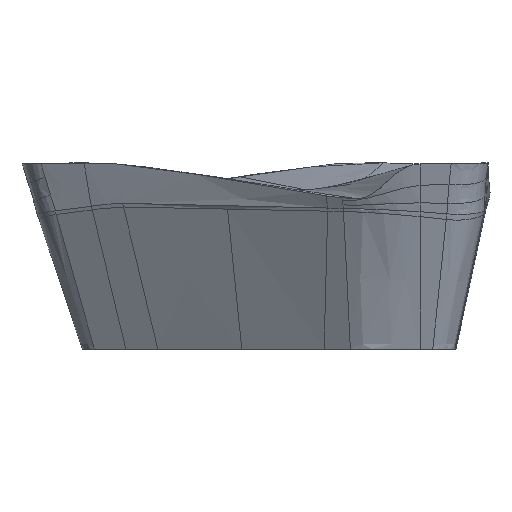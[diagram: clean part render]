
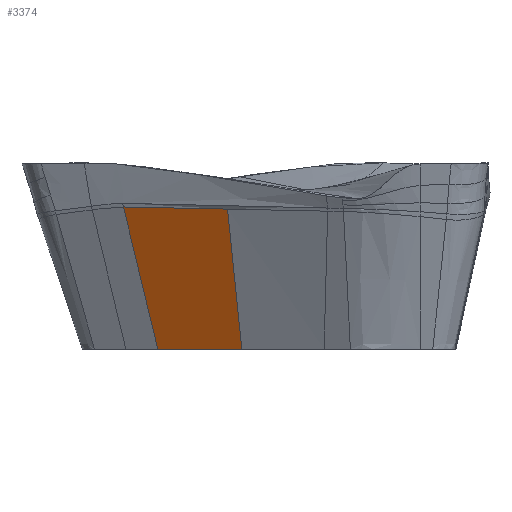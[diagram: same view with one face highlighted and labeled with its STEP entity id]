
A CAD part, left-side view. The second image highlights one B-rep face of the part: STEP entity #3374.
In plain terms, the highlighted free-form (B-spline) face has degree [5, 5] with [6, 9] control points.
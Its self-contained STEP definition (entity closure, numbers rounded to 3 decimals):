
#2306=CARTESIAN_POINT('Vertex',(-2.625,1.516,0.)) ;
#2310=CARTESIAN_POINT('Control Point',(-2.625,1.516,0.)) ;
#2311=CARTESIAN_POINT('Control Point',(-2.437,1.837,0.)) ;
#2312=CARTESIAN_POINT('Control Point',(-2.249,2.158,0.)) ;
#2313=CARTESIAN_POINT('Control Point',(-2.061,2.479,0.)) ;
#2314=CARTESIAN_POINT('Control Point',(-1.852,2.836,0.)) ;
#2315=CARTESIAN_POINT('Control Point',(-1.644,3.194,0.)) ;
#2316=CARTESIAN_POINT('Control Point',(-1.623,3.23,0.)) ;
#2317=CARTESIAN_POINT('Control Point',(-1.602,3.266,0.)) ;
#2318=CARTESIAN_POINT('Control Point',(-1.581,3.301,0.)) ;
#2319=CARTESIAN_POINT('Vertex',(-1.581,3.301,0.)) ;
#3256=CARTESIAN_POINT('Vertex',(-1.905,4.035,3.025)) ;
#3268=CARTESIAN_POINT('Control Point',(-1.581,3.301,0.)) ;
#3269=CARTESIAN_POINT('Control Point',(-1.582,3.303,0.009)) ;
#3270=CARTESIAN_POINT('Control Point',(-1.583,3.306,0.018)) ;
#3271=CARTESIAN_POINT('Control Point',(-1.584,3.308,0.026)) ;
#3272=CARTESIAN_POINT('Control Point',(-1.585,3.311,0.039)) ;
#3273=CARTESIAN_POINT('Control Point',(-1.586,3.314,0.052)) ;
#3274=CARTESIAN_POINT('Control Point',(-1.587,3.315,0.055)) ;
#3275=CARTESIAN_POINT('Control Point',(-1.588,3.317,0.067)) ;
#3276=CARTESIAN_POINT('Control Point',(-1.589,3.321,0.079)) ;
#3277=CARTESIAN_POINT('Control Point',(-1.59,3.322,0.086)) ;
#3278=CARTESIAN_POINT('Control Point',(-1.653,3.466,0.678)) ;
#3279=CARTESIAN_POINT('Control Point',(-1.717,3.61,1.273)) ;
#3280=CARTESIAN_POINT('Control Point',(-1.779,3.751,1.855)) ;
#3281=CARTESIAN_POINT('Control Point',(-1.842,3.894,2.441)) ;
#3282=CARTESIAN_POINT('Control Point',(-1.905,4.035,3.025)) ;
#3293=CARTESIAN_POINT('Control Point',(-3.151,1.819,2.98)) ;
#3294=CARTESIAN_POINT('Control Point',(-3.042,1.756,2.406)) ;
#3295=CARTESIAN_POINT('Control Point',(-2.937,1.696,1.831)) ;
#3296=CARTESIAN_POINT('Control Point',(-2.835,1.637,1.255)) ;
#3297=CARTESIAN_POINT('Control Point',(-2.687,1.552,0.389)) ;
#3298=CARTESIAN_POINT('Control Point',(-2.547,1.471,-0.478)) ;
#3299=CARTESIAN_POINT('Control Point',(-2.501,1.444,-0.767)) ;
#3300=CARTESIAN_POINT('Control Point',(-2.454,1.417,-1.056)) ;
#3301=CARTESIAN_POINT('Control Point',(-2.407,1.39,-1.345)) ;
#3302=CARTESIAN_POINT('Control Point',(-2.896,2.259,2.989)) ;
#3303=CARTESIAN_POINT('Control Point',(-2.797,2.181,2.413)) ;
#3304=CARTESIAN_POINT('Control Point',(-2.701,2.104,1.835)) ;
#3305=CARTESIAN_POINT('Control Point',(-2.608,2.03,1.257)) ;
#3306=CARTESIAN_POINT('Control Point',(-2.474,1.92,0.39)) ;
#3307=CARTESIAN_POINT('Control Point',(-2.345,1.814,-0.479)) ;
#3308=CARTESIAN_POINT('Control Point',(-2.302,1.779,-0.769)) ;
#3309=CARTESIAN_POINT('Control Point',(-2.259,1.744,-1.058)) ;
#3310=CARTESIAN_POINT('Control Point',(-2.216,1.709,-1.348)) ;
#3311=CARTESIAN_POINT('Control Point',(-2.65,2.704,2.998)) ;
#3312=CARTESIAN_POINT('Control Point',(-2.559,2.61,2.419)) ;
#3313=CARTESIAN_POINT('Control Point',(-2.472,2.517,1.839)) ;
#3314=CARTESIAN_POINT('Control Point',(-2.387,2.425,1.262)) ;
#3315=CARTESIAN_POINT('Control Point',(-2.262,2.289,0.389)) ;
#3316=CARTESIAN_POINT('Control Point',(-2.14,2.156,-0.48)) ;
#3317=CARTESIAN_POINT('Control Point',(-2.1,2.112,-0.769)) ;
#3318=CARTESIAN_POINT('Control Point',(-2.059,2.068,-1.059)) ;
#3319=CARTESIAN_POINT('Control Point',(-2.019,2.024,-1.349)) ;
#3320=CARTESIAN_POINT('Control Point',(-2.406,3.15,3.007)) ;
#3321=CARTESIAN_POINT('Control Point',(-2.325,3.04,2.425)) ;
#3322=CARTESIAN_POINT('Control Point',(-2.245,2.93,1.843)) ;
#3323=CARTESIAN_POINT('Control Point',(-2.167,2.822,1.267)) ;
#3324=CARTESIAN_POINT('Control Point',(-2.05,2.658,0.388)) ;
#3325=CARTESIAN_POINT('Control Point',(-1.935,2.498,-0.48)) ;
#3326=CARTESIAN_POINT('Control Point',(-1.896,2.444,-0.77)) ;
#3327=CARTESIAN_POINT('Control Point',(-1.858,2.391,-1.06)) ;
#3328=CARTESIAN_POINT('Control Point',(-1.819,2.337,-1.35)) ;
#3329=CARTESIAN_POINT('Control Point',(-2.159,3.595,3.016)) ;
#3330=CARTESIAN_POINT('Control Point',(-2.087,3.469,2.432)) ;
#3331=CARTESIAN_POINT('Control Point',(-2.016,3.342,1.847)) ;
#3332=CARTESIAN_POINT('Control Point',(-1.945,3.218,1.272)) ;
#3333=CARTESIAN_POINT('Control Point',(-1.837,3.027,0.387)) ;
#3334=CARTESIAN_POINT('Control Point',(-1.731,2.84,-0.48)) ;
#3335=CARTESIAN_POINT('Control Point',(-1.695,2.778,-0.77)) ;
#3336=CARTESIAN_POINT('Control Point',(-1.659,2.715,-1.06)) ;
#3337=CARTESIAN_POINT('Control Point',(-1.624,2.653,-1.349)) ;
#3338=CARTESIAN_POINT('Control Point',(-1.905,4.035,3.025)) ;
#3339=CARTESIAN_POINT('Control Point',(-1.842,3.893,2.441)) ;
#3340=CARTESIAN_POINT('Control Point',(-1.779,3.751,1.853)) ;
#3341=CARTESIAN_POINT('Control Point',(-1.717,3.611,1.274)) ;
#3342=CARTESIAN_POINT('Control Point',(-1.622,3.395,0.386)) ;
#3343=CARTESIAN_POINT('Control Point',(-1.53,3.185,-0.479)) ;
#3344=CARTESIAN_POINT('Control Point',(-1.499,3.115,-0.769)) ;
#3345=CARTESIAN_POINT('Control Point',(-1.468,3.044,-1.059)) ;
#3346=CARTESIAN_POINT('Control Point',(-1.437,2.974,-1.348)) ;
#3348=CARTESIAN_POINT('Control Point',(-3.151,1.819,2.98)) ;
#3349=CARTESIAN_POINT('Control Point',(-3.042,1.756,2.406)) ;
#3350=CARTESIAN_POINT('Control Point',(-2.937,1.696,1.831)) ;
#3351=CARTESIAN_POINT('Control Point',(-2.835,1.637,1.255)) ;
#3352=CARTESIAN_POINT('Control Point',(-2.733,1.578,0.658)) ;
#3353=CARTESIAN_POINT('Control Point',(-2.635,1.521,0.06)) ;
#3354=CARTESIAN_POINT('Control Point',(-2.632,1.519,0.04)) ;
#3355=CARTESIAN_POINT('Control Point',(-2.628,1.518,0.02)) ;
#3356=CARTESIAN_POINT('Control Point',(-2.625,1.516,0.)) ;
#3357=CARTESIAN_POINT('Vertex',(-3.151,1.819,2.98)) ;
#3361=CARTESIAN_POINT('Control Point',(-3.151,1.819,2.98)) ;
#3362=CARTESIAN_POINT('Control Point',(-2.896,2.259,2.989)) ;
#3363=CARTESIAN_POINT('Control Point',(-2.65,2.704,2.998)) ;
#3364=CARTESIAN_POINT('Control Point',(-2.406,3.15,3.007)) ;
#3365=CARTESIAN_POINT('Control Point',(-2.159,3.595,3.016)) ;
#3366=CARTESIAN_POINT('Control Point',(-1.905,4.035,3.025)) ;
#3369=ORIENTED_EDGE('',*,*,#3283,.F.) ;
#3370=ORIENTED_EDGE('',*,*,#2321,.F.) ;
#3371=ORIENTED_EDGE('',*,*,#3359,.T.) ;
#3372=ORIENTED_EDGE('',*,*,#3367,.T.) ;
#3374=ADVANCED_FACE('CUT',(#3373),#3292,.T.) ;
#2309=B_SPLINE_CURVE_WITH_KNOTS('',5,(#2310,#2311,#2312,#2313,#2314,#2315,#2316,#2317,#2318),.UNSPECIFIED.,.F.,.U.,(6,3,6),(0.,2.793,3.104),.UNSPECIFIED.) ;
#3267=B_SPLINE_CURVE_WITH_KNOTS('',5,(#3268,#3269,#3270,#3271,#3272,#3273,#3274,#3275,#3276,#3277,#3278,#3279,#3280,#3281,#3282),.UNSPECIFIED.,.F.,.U.,(6,3,3,3,6),(-0.068,-0.021,0.,0.041,2.956),.UNSPECIFIED.) ;
#3347=B_SPLINE_CURVE_WITH_KNOTS('',5,(#3348,#3349,#3350,#3351,#3352,#3353,#3354,#3355,#3356),.UNSPECIFIED.,.F.,.U.,(6,3,6),(0.,2.979,3.082),.UNSPECIFIED.) ;
#3360=B_SPLINE_CURVE_WITH_KNOTS('',5,(#3361,#3362,#3363,#3364,#3365,#3366),.UNSPECIFIED.,.F.,.U.,(6,6),(0.,2.314),.UNSPECIFIED.) ;
#3292=B_SPLINE_SURFACE_WITH_KNOTS('',5,5,((#3293,#3294,#3295,#3296,#3297,#3298,#3299,#3300,#3301),(#3302,#3303,#3304,#3305,#3306,#3307,#3308,#3309,#3310),(#3311,#3312,#3313,#3314,#3315,#3316,#3317,#3318,#3319),(#3320,#3321,#3322,#3323,#3324,#3325,#3326,#3327,#3328),(#3329,#3330,#3331,#3332,#3333,#3334,#3335,#3336,#3337),(#3338,#3339,#3340,#3341,#3342,#3343,#3344,#3345,#3346)),.UNSPECIFIED.,.F.,.F.,.U.,(6,6),(6,3,6),(0.,2.314),(0.,2.979,4.469),.UNSPECIFIED.) ;
#2321=EDGE_CURVE('',#2307,#2320,#2309,.T.) ;
#3283=EDGE_CURVE('',#2320,#3257,#3267,.T.) ;
#3359=EDGE_CURVE('',#2307,#3358,#3347,.F.) ;
#3367=EDGE_CURVE('',#3358,#3257,#3360,.T.) ;
#3368=EDGE_LOOP('',(#3369,#3370,#3371,#3372)) ;
#3373=FACE_OUTER_BOUND('',#3368,.T.) ;
#2307=VERTEX_POINT('',#2306) ;
#2320=VERTEX_POINT('',#2319) ;
#3257=VERTEX_POINT('',#3256) ;
#3358=VERTEX_POINT('',#3357) ;
